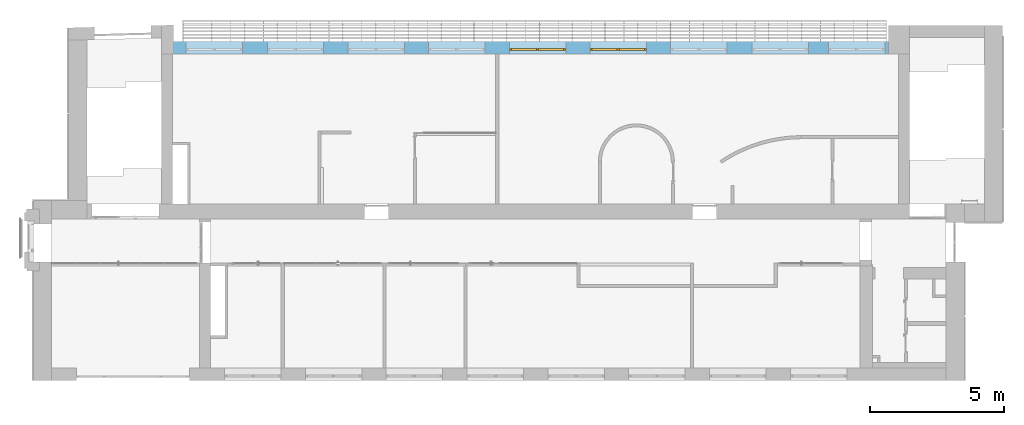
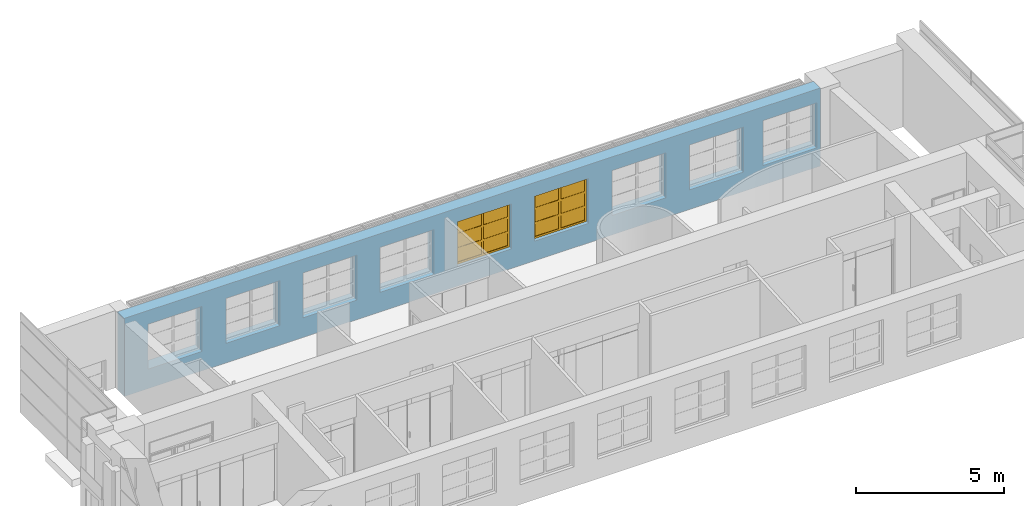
# One storey, part 36 of 46: 2 windows, 9 openings, plus 1 element that does not belong to this part.
"""IFC2X3 building model written with IfcOpenShell, lengths in millimetres."""

from ifc_helpers import new_model, entity, si_unit, converted_unit, derived_unit, direction, frame, frame_2d, origin, origin_2d_with_axis, place, context, subcontext, project, spatial, rectangle, extrude, face_set, surface_model, source, transform, mapped, material, material_list, layer, layer_set, layer_usage, type_object, type_shapes, element, fill, save


model = new_model("IFC2X3")

# Units and contexts
model_context = context("Model", 3, precision=0.01, world=origin(), true_north=direction((6.12303176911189e-17, 1.0)))
body_context = subcontext(model_context, "Body", "Model", "MODEL_VIEW")
ifc_project = project(units=[si_unit("LENGTHUNIT", "METRE", prefix="MILLI"), si_unit("AREAUNIT", "SQUARE_METRE"), si_unit("VOLUMEUNIT", "CUBIC_METRE"), converted_unit("PLANEANGLEUNIT", "DEGREE", entity("IfcRatioMeasure", 0.0174532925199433), si_unit("PLANEANGLEUNIT", "RADIAN"), dimensions=[0, 0, 0, 0, 0, 0, 0]), si_unit("MASSUNIT", "GRAM", prefix="KILO"), derived_unit("MASSDENSITYUNIT", [(si_unit("MASSUNIT", "GRAM", prefix="KILO"), 1), (si_unit("LENGTHUNIT", "METRE"), -3)]), si_unit("TIMEUNIT", "SECOND"), si_unit("FREQUENCYUNIT", "HERTZ"), si_unit("THERMODYNAMICTEMPERATUREUNIT", "DEGREE_CELSIUS"), derived_unit("THERMALTRANSMITTANCEUNIT", [(si_unit("MASSUNIT", "GRAM", prefix="KILO"), 1), (si_unit("THERMODYNAMICTEMPERATUREUNIT", "KELVIN"), -1), (si_unit("TIMEUNIT", "SECOND"), -3)]), derived_unit("VOLUMETRICFLOWRATEUNIT", [(si_unit("LENGTHUNIT", "METRE"), 3), (si_unit("TIMEUNIT", "SECOND"), -1)]), si_unit("ELECTRICCURRENTUNIT", "AMPERE"), si_unit("ELECTRICVOLTAGEUNIT", "VOLT"), si_unit("POWERUNIT", "WATT"), si_unit("FORCEUNIT", "NEWTON", prefix="KILO"), si_unit("ILLUMINANCEUNIT", "LUX"), si_unit("LUMINOUSFLUXUNIT", "LUMEN"), si_unit("LUMINOUSINTENSITYUNIT", "CANDELA"), derived_unit("USERDEFINED", [(si_unit("MASSUNIT", "GRAM", prefix="KILO"), -1), (si_unit("LENGTHUNIT", "METRE"), -2), (si_unit("TIMEUNIT", "SECOND"), 3), (si_unit("LUMINOUSFLUXUNIT", "LUMEN"), 1)]), derived_unit("LINEARVELOCITYUNIT", [(si_unit("LENGTHUNIT", "METRE"), 1), (si_unit("TIMEUNIT", "SECOND"), -1)]), si_unit("PRESSUREUNIT", "PASCAL"), derived_unit("USERDEFINED", [(si_unit("LENGTHUNIT", "METRE"), -2), (si_unit("MASSUNIT", "GRAM", prefix="KILO"), 1), (si_unit("TIMEUNIT", "SECOND"), -2)])], contexts=[model_context])

# Site, building, storey
site_placement = place(None, frame((-151.875543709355, 2715.0, 0.0)))
site = spatial("IfcSite", under=ifc_project, at=site_placement, Name="Surface", CompositionType="ELEMENT")
building_placement = place(site_placement, origin())
building = spatial("IfcBuilding", under=site, at=building_placement, CompositionType="ELEMENT")
storey_placement = place(building_placement, frame((0.0, 0.0, 10060.0)))
storey = spatial("IfcBuildingStorey", under=building, at=storey_placement, Name="4 korrus", CompositionType="ELEMENT", Elevation=10060.0000000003)

# Wall, openings, windows
ifc_material_1 = material(Name="Brick, Common")
ifc_layer_1 = layer(ifc_material_1, 440.0)
ifc_material_2 = material(Name="__Kips GN13_tava")
ifc_layer_2 = layer(ifc_material_2, 20.0)
ifc_layer_set = layer_set([ifc_layer_1, ifc_layer_2], Name="Basic Wall:VS-1")
ifc_layer_usage = layer_usage(ifc_layer_set, "AXIS2", "POSITIVE", -230.0)
wall_type = type_object("IfcWallType", Name="Basic Wall:VS-1", PredefinedType="STANDARD", material=ifc_layer_set)
wall_placement = place(storey_placement, frame((31602.6162682, 12380.0, 0.0), z_axis=(0.0, 0.0, 1.0), x_axis=(-1.0, 0.0, 0.0)))
wall = element("IfcWallStandardCase", 1, at=wall_placement, inside=storey, type_object=wall_type, material=ifc_layer_usage, Name="SEIN - 005", ObjectType="Basic Wall:VS-1", context=body_context, shape_type="SweptSolid", body=[
    extrude(rectangle(XDim=27061.7433388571, YDim=459.999999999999, at=frame_2d((13530.8716694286, 0.0), x_axis=(-1.0, 0.0))), origin(), (0.0, 0.0, 1.0), 3209.74134984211),
])
opening_1_placement = place(wall_placement, frame((31602.6162682, 12380.0, 0.0), z_axis=(0.0, 0.0, 1.0), x_axis=(-1.0, 0.0, 0.0)))
element("IfcOpeningElement", 2, at=opening_1_placement, cuts=wall, Name="SEIN - 005", ObjectType="Opening", context=body_context, shape_type="SweptSolid", body=[
    extrude(rectangle(XDim=1850.0, YDim=2100.0, at=frame_2d((0.0, -5.6843418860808e-13), x_axis=(1.0, 0.0))), frame((6512.84935535, 13077.9, 1725.0), z_axis=(0.0, -1.0, 0.0), x_axis=(0.0, 0.0, 1.0)), (0.0, 0.0, 1.0), 1393.8),
])
opening_2_placement = place(wall_placement, frame((31602.6162682, 12380.0, 0.0), z_axis=(0.0, 0.0, 1.0), x_axis=(-1.0, 0.0, 0.0)))
element("IfcOpeningElement", 3, at=opening_2_placement, cuts=wall, Name="SEIN - 005", ObjectType="Opening", context=body_context, shape_type="SweptSolid", body=[
    extrude(rectangle(XDim=1850.0, YDim=2100.0, at=frame_2d((0.0, -1.02318153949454e-12), x_axis=(1.0, 0.0))), frame((9532.84935535, 13077.9, 1725.0), z_axis=(0.0, -1.0, 0.0), x_axis=(0.0, 0.0, 1.0)), (0.0, 0.0, 1.0), 1393.8),
])
opening_3_placement = place(wall_placement, frame((31602.6162682, 12380.0, 0.0), z_axis=(0.0, 0.0, 1.0), x_axis=(-1.0, 0.0, 0.0)))
element("IfcOpeningElement", 4, at=opening_3_placement, cuts=wall, Name="SEIN - 005", ObjectType="Opening", context=body_context, shape_type="SweptSolid", body=[
    extrude(rectangle(XDim=1850.0, YDim=2100.0, at=origin_2d_with_axis()), frame((12532.84935535, 13077.9, 1725.0), z_axis=(0.0, -1.0, 0.0), x_axis=(0.0, 0.0, 1.0)), (0.0, 0.0, 1.0), 1393.8),
])
opening_4_placement = place(wall_placement, frame((31602.6162682, 12380.0, 0.0), z_axis=(0.0, 0.0, 1.0), x_axis=(-1.0, 0.0, 0.0)))
element("IfcOpeningElement", 5, at=opening_4_placement, cuts=wall, Name="SEIN - 005", ObjectType="Opening", context=body_context, shape_type="SweptSolid", body=[
    extrude(rectangle(XDim=1850.0, YDim=2100.0, at=origin_2d_with_axis()), frame((15532.84935531, 13077.9, 1725.0), z_axis=(0.0, -1.0, 0.0), x_axis=(0.0, 0.0, 1.0)), (0.0, 0.0, 1.0), 1393.8),
])
opening_5_placement = place(wall_placement, frame((31602.6162682, 12380.0, 0.0), z_axis=(0.0, 0.0, 1.0), x_axis=(-1.0, 0.0, 0.0)))
opening_5 = element("IfcOpeningElement", 6, at=opening_5_placement, cuts=wall, Name="SEIN - 005", ObjectType="Opening", context=body_context, shape_type="SweptSolid", body=[
    extrude(rectangle(XDim=1850.0, YDim=2100.0, at=origin_2d_with_axis()), frame((18542.84935531, 13077.9, 1725.0), z_axis=(0.0, -1.0, 0.0), x_axis=(0.0, 0.0, 1.0)), (0.0, 0.0, 1.0), 1393.8),
])
opening_6_placement = place(wall_placement, frame((31602.6162682, 12380.0, 0.0), z_axis=(0.0, 0.0, 1.0), x_axis=(-1.0, 0.0, 0.0)))
opening_6 = element("IfcOpeningElement", 7, at=opening_6_placement, cuts=wall, Name="SEIN - 005", ObjectType="Opening", context=body_context, shape_type="SweptSolid", body=[
    extrude(rectangle(XDim=1850.0, YDim=2100.0, at=origin_2d_with_axis()), frame((21543.05309771, 13077.9, 1725.0), z_axis=(0.0, -1.0, 0.0), x_axis=(0.0, 0.0, 1.0)), (0.0, 0.0, 1.0), 1393.8),
])
opening_7_placement = place(wall_placement, frame((31602.6162682, 12380.0, 0.0), z_axis=(0.0, 0.0, 1.0), x_axis=(-1.0, 0.0, 0.0)))
element("IfcOpeningElement", 8, at=opening_7_placement, cuts=wall, Name="SEIN - 005", ObjectType="Opening", context=body_context, shape_type="SweptSolid", body=[
    extrude(rectangle(XDim=1850.0, YDim=2100.0, at=origin_2d_with_axis()), frame((24543.05309771, 13077.9, 1725.0), z_axis=(0.0, -1.0, 0.0), x_axis=(0.0, 0.0, 1.0)), (0.0, 0.0, 1.0), 1393.8),
])
opening_8_placement = place(wall_placement, frame((31602.6162682, 12380.0, 0.0), z_axis=(0.0, 0.0, 1.0), x_axis=(-1.0, 0.0, 0.0)))
element("IfcOpeningElement", 9, at=opening_8_placement, cuts=wall, Name="SEIN - 005", ObjectType="Opening", context=body_context, shape_type="SweptSolid", body=[
    extrude(rectangle(XDim=1850.0, YDim=2100.0, at=frame_2d((0.0, 4.32009983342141e-12), x_axis=(1.0, 0.0))), frame((27563.05309771, 13077.9, 1725.0), z_axis=(0.0, -1.0, 0.0), x_axis=(0.0, 0.0, 1.0)), (0.0, 0.0, 1.0), 1393.8),
])
opening_9_placement = place(wall_placement, frame((31602.6162682, 12380.0, 0.0), z_axis=(0.0, 0.0, 1.0), x_axis=(-1.0, 0.0, 0.0)))
element("IfcOpeningElement", 10, at=opening_9_placement, cuts=wall, Name="SEIN - 005", ObjectType="Opening", context=body_context, shape_type="SweptSolid", body=[
    extrude(rectangle(XDim=1850.0, YDim=2100.0, at=origin_2d_with_axis()), frame((30412.57293081, 13077.9, 1725.0), z_axis=(0.0, -1.0, 0.0), x_axis=(0.0, 0.0, 1.0)), (0.0, 0.0, 1.0), 1393.8),
])
ifc_material_3 = material(Name="Paint - Titanium White")
ifc_material_4 = material(Name="Paint - Dark Gray")
ifc_material_5 = material(Name="Glass - Clear Fast")
ifc_material_list_1 = material_list([ifc_material_3, ifc_material_4, ifc_material_5])
ifc_material_list_2 = material_list([ifc_material_3, ifc_material_4, ifc_material_5])
window_style = type_object("IfcWindowStyle", Name="Aken_1850x2100", ConstructionType="NOTDEFINED", OperationType="DOUBLE_PANEL_VERTICAL", ParameterTakesPrecedence=False, Sizeable=False, material=ifc_material_list_2)
shared_shape = source(origin(), body_context, "Body", "SurfaceModel", [
    surface_model("IfcFaceBasedSurfaceModel", [(80.0, -665.9, 1770.0), (80.0, -620.9, 1770.0), (0.0, -620.9, 1770.0), (0.0, -665.9, 1770.0), (80.0, -665.9, 80.0), (80.0, -620.9, 80.0), (80.0, -620.9, 1770.0), (80.0, -665.9, 1770.0), (80.0, -620.9, 1770.0), (80.0, -620.9, 80.0), (0.0, -620.9, 80.0), (0.0, -620.9, 1770.0), (0.0, -665.9, 1770.0), (0.0, -620.9, 1770.0), (0.0, -620.9, 80.0), (0.0, -665.9, 80.0), (80.0, -665.9, 1770.0), (0.0, -665.9, 1770.0), (0.0, -665.9, 80.0), (80.0, -665.9, 80.0), (0.0, -665.9, 80.0), (0.0, -620.9, 80.0), (80.0, -620.9, 80.0), (80.0, -665.9, 80.0), (2020.0, -665.9, 80.0), (2020.0, -620.9, 80.0), (2100.0, -620.9, 80.0), (2100.0, -665.9, 80.0), (2020.0, -665.9, 1770.0), (2020.0, -620.9, 1770.0), (2020.0, -620.9, 80.0), (2020.0, -665.9, 80.0), (2020.0, -620.9, 80.0), (2020.0, -620.9, 1770.0), (2100.0, -620.9, 1770.0), (2100.0, -620.9, 80.0), (2100.0, -665.9, 80.0), (2100.0, -620.9, 80.0), (2100.0, -620.9, 1770.0), (2100.0, -665.9, 1770.0), (2020.0, -665.9, 80.0), (2100.0, -665.9, 80.0), (2100.0, -665.9, 1770.0), (2020.0, -665.9, 1770.0), (2100.0, -665.9, 1770.0), (2100.0, -620.9, 1770.0), (2020.0, -620.9, 1770.0), (2020.0, -665.9, 1770.0), (1010.0, -665.9, 80.0), (1010.0, -620.9, 80.0), (1090.0, -620.9, 80.0), (1090.0, -665.9, 80.0), (1010.0, -665.9, 1770.0), (1010.0, -620.9, 1770.0), (1010.0, -620.9, 80.0), (1010.0, -665.9, 80.0), (1010.0, -620.9, 80.0), (1010.0, -620.9, 1770.0), (1090.0, -620.9, 1770.0), (1090.0, -620.9, 80.0), (1090.0, -665.9, 80.0), (1090.0, -620.9, 80.0), (1090.0, -620.9, 1770.0), (1090.0, -665.9, 1770.0), (1010.0, -665.9, 80.0), (1090.0, -665.9, 80.0), (1090.0, -665.9, 1770.0), (1010.0, -665.9, 1770.0), (1090.0, -665.9, 1770.0), (1090.0, -620.9, 1770.0), (1010.0, -620.9, 1770.0), (1010.0, -665.9, 1770.0), (80.0, -665.9, 80.0), (80.0, -620.9, 80.0), (0.0, -620.9, 80.0), (0.0, -665.9, 80.0), (1010.0, -665.9, 80.0), (1010.0, -620.9, 80.0), (80.0, -620.9, 80.0), (80.0, -665.9, 80.0), (80.0, -620.9, 80.0), (1010.0, -620.9, 80.0), (1090.0, -620.9, 80.0), (2020.0, -620.9, 80.0), (2100.0, -620.9, 80.0), (2100.0, -620.9, 0.0), (0.0, -620.9, 0.0), (0.0, -620.9, 80.0), (0.0, -665.9, 80.0), (0.0, -620.9, 80.0), (0.0, -620.9, 0.0), (0.0, -665.9, 0.0), (80.0, -665.9, 80.0), (0.0, -665.9, 80.0), (0.0, -665.9, 0.0), (2100.0, -665.9, 0.0), (2100.0, -665.9, 80.0), (2020.0, -665.9, 80.0), (1090.0, -665.9, 80.0), (1010.0, -665.9, 80.0), (1090.0, -665.9, 80.0), (1090.0, -620.9, 80.0), (1010.0, -620.9, 80.0), (1010.0, -665.9, 80.0), (2020.0, -665.9, 80.0), (2020.0, -620.9, 80.0), (1090.0, -620.9, 80.0), (1090.0, -665.9, 80.0), (2100.0, -665.9, 80.0), (2100.0, -620.9, 80.0), (2020.0, -620.9, 80.0), (2020.0, -665.9, 80.0), (2100.0, -665.9, 0.0), (2100.0, -620.9, 0.0), (2100.0, -620.9, 80.0), (2100.0, -665.9, 80.0), (0.0, -665.9, 0.0), (0.0, -620.9, 0.0), (2100.0, -620.9, 0.0), (2100.0, -665.9, 0.0), (1010.0, -665.9, 1770.0), (1010.0, -620.9, 1770.0), (1090.0, -620.9, 1770.0), (1090.0, -665.9, 1770.0), (80.0, -665.9, 1770.0), (80.0, -620.9, 1770.0), (1010.0, -620.9, 1770.0), (1010.0, -665.9, 1770.0), (1010.0, -620.9, 1770.0), (80.0, -620.9, 1770.0), (0.0, -620.9, 1770.0), (0.0, -620.9, 1850.0), (2100.0, -620.9, 1850.0), (2100.0, -620.9, 1770.0), (2020.0, -620.9, 1770.0), (1090.0, -620.9, 1770.0), (1090.0, -665.9, 1770.0), (1090.0, -620.9, 1770.0), (2020.0, -620.9, 1770.0), (2020.0, -665.9, 1770.0), (1010.0, -665.9, 1770.0), (1090.0, -665.9, 1770.0), (2020.0, -665.9, 1770.0), (2100.0, -665.9, 1770.0), (2100.0, -665.9, 1850.0), (0.0, -665.9, 1850.0), (0.0, -665.9, 1770.0), (80.0, -665.9, 1770.0), (0.0, -665.9, 1770.0), (0.0, -620.9, 1770.0), (80.0, -620.9, 1770.0), (80.0, -665.9, 1770.0), (0.0, -665.9, 1850.0), (0.0, -620.9, 1850.0), (0.0, -620.9, 1770.0), (0.0, -665.9, 1770.0), (2100.0, -665.9, 1850.0), (2100.0, -620.9, 1850.0), (0.0, -620.9, 1850.0), (0.0, -665.9, 1850.0), (2100.0, -665.9, 1770.0), (2100.0, -620.9, 1770.0), (2100.0, -620.9, 1850.0), (2100.0, -665.9, 1850.0), (2020.0, -665.9, 1770.0), (2020.0, -620.9, 1770.0), (2100.0, -620.9, 1770.0), (2100.0, -665.9, 1770.0), (80.0, -640.9, 590.0), (80.0, -630.9, 590.0), (1010.0, -630.9, 590.0), (1010.0, -640.9, 590.0), (80.0, -640.9, 670.0), (80.0, -630.9, 670.0), (80.0, -630.9, 590.0), (80.0, -640.9, 590.0), (80.0, -630.9, 590.0), (80.0, -630.9, 670.0), (1010.0, -630.9, 670.0), (1010.0, -630.9, 590.0), (1010.0, -640.9, 590.0), (1010.0, -630.9, 590.0), (1010.0, -630.9, 670.0), (1010.0, -640.9, 670.0), (80.0, -640.9, 590.0), (1010.0, -640.9, 590.0), (1010.0, -640.9, 670.0), (80.0, -640.9, 670.0), (1010.0, -640.9, 670.0), (1010.0, -630.9, 670.0), (80.0, -630.9, 670.0), (80.0, -640.9, 670.0), (80.0, -640.9, 1180.0), (80.0, -630.9, 1180.0), (1010.0, -630.9, 1180.0), (1010.0, -640.9, 1180.0), (80.0, -640.9, 1260.0), (80.0, -630.9, 1260.0), (80.0, -630.9, 1180.0), (80.0, -640.9, 1180.0), (80.0, -630.9, 1180.0), (80.0, -630.9, 1260.0), (1010.0, -630.9, 1260.0), (1010.0, -630.9, 1180.0), (1010.0, -640.9, 1180.0), (1010.0, -630.9, 1180.0), (1010.0, -630.9, 1260.0), (1010.0, -640.9, 1260.0), (80.0, -640.9, 1180.0), (1010.0, -640.9, 1180.0), (1010.0, -640.9, 1260.0), (80.0, -640.9, 1260.0), (1010.0, -640.9, 1260.0), (1010.0, -630.9, 1260.0), (80.0, -630.9, 1260.0), (80.0, -640.9, 1260.0), (1090.0, -640.9, 590.0), (1090.0, -630.9, 590.0), (2020.0, -630.9, 590.0), (2020.0, -640.9, 590.0), (1090.0, -640.9, 670.0), (1090.0, -630.9, 670.0), (1090.0, -630.9, 590.0), (1090.0, -640.9, 590.0), (1090.0, -630.9, 590.0), (1090.0, -630.9, 670.0), (2020.0, -630.9, 670.0), (2020.0, -630.9, 590.0), (2020.0, -640.9, 590.0), (2020.0, -630.9, 590.0), (2020.0, -630.9, 670.0), (2020.0, -640.9, 670.0), (1090.0, -640.9, 590.0), (2020.0, -640.9, 590.0), (2020.0, -640.9, 670.0), (1090.0, -640.9, 670.0), (2020.0, -640.9, 670.0), (2020.0, -630.9, 670.0), (1090.0, -630.9, 670.0), (1090.0, -640.9, 670.0), (1090.0, -640.9, 1180.0), (1090.0, -630.9, 1180.0), (2020.0, -630.9, 1180.0), (2020.0, -640.9, 1180.0), (1090.0, -640.9, 1260.0), (1090.0, -630.9, 1260.0), (1090.0, -630.9, 1180.0), (1090.0, -640.9, 1180.0), (1090.0, -630.9, 1180.0), (1090.0, -630.9, 1260.0), (2020.0, -630.9, 1260.0), (2020.0, -630.9, 1180.0), (2020.0, -640.9, 1180.0), (2020.0, -630.9, 1180.0), (2020.0, -630.9, 1260.0), (2020.0, -640.9, 1260.0), (1090.0, -640.9, 1180.0), (2020.0, -640.9, 1180.0), (2020.0, -640.9, 1260.0), (1090.0, -640.9, 1260.0), (2020.0, -640.9, 1260.0), (2020.0, -630.9, 1260.0), (1090.0, -630.9, 1260.0), (1090.0, -640.9, 1260.0)], [face_set([[[0, 1, 2, 3]]]), face_set([[[4, 5, 6, 7]]]), face_set([[[8, 9, 10, 11]]]), face_set([[[12, 13, 14, 15]]]), face_set([[[16, 17, 18, 19]]]), face_set([[[20, 21, 22, 23]]]), face_set([[[24, 25, 26, 27]]]), face_set([[[28, 29, 30, 31]]]), face_set([[[32, 33, 34, 35]]]), face_set([[[36, 37, 38, 39]]]), face_set([[[40, 41, 42, 43]]]), face_set([[[44, 45, 46, 47]]]), face_set([[[48, 49, 50, 51]]]), face_set([[[52, 53, 54, 55]]]), face_set([[[56, 57, 58, 59]]]), face_set([[[60, 61, 62, 63]]]), face_set([[[64, 65, 66, 67]]]), face_set([[[68, 69, 70, 71]]]), face_set([[[72, 73, 74, 75]]]), face_set([[[76, 77, 78, 79]]]), face_set([[[80, 81, 82, 83, 84, 85, 86, 87]]]), face_set([[[88, 89, 90, 91]]]), face_set([[[92, 93, 94, 95, 96, 97, 98, 99]]]), face_set([[[100, 101, 102, 103]]]), face_set([[[104, 105, 106, 107]]]), face_set([[[108, 109, 110, 111]]]), face_set([[[112, 113, 114, 115]]]), face_set([[[116, 117, 118, 119]]]), face_set([[[120, 121, 122, 123]]]), face_set([[[124, 125, 126, 127]]]), face_set([[[128, 129, 130, 131, 132, 133, 134, 135]]]), face_set([[[136, 137, 138, 139]]]), face_set([[[140, 141, 142, 143, 144, 145, 146, 147]]]), face_set([[[148, 149, 150, 151]]]), face_set([[[152, 153, 154, 155]]]), face_set([[[156, 157, 158, 159]]]), face_set([[[160, 161, 162, 163]]]), face_set([[[164, 165, 166, 167]]]), face_set([[[168, 169, 170, 171]]]), face_set([[[172, 173, 174, 175]]]), face_set([[[176, 177, 178, 179]]]), face_set([[[180, 181, 182, 183]]]), face_set([[[184, 185, 186, 187]]]), face_set([[[188, 189, 190, 191]]]), face_set([[[192, 193, 194, 195]]]), face_set([[[196, 197, 198, 199]]]), face_set([[[200, 201, 202, 203]]]), face_set([[[204, 205, 206, 207]]]), face_set([[[208, 209, 210, 211]]]), face_set([[[212, 213, 214, 215]]]), face_set([[[216, 217, 218, 219]]]), face_set([[[220, 221, 222, 223]]]), face_set([[[224, 225, 226, 227]]]), face_set([[[228, 229, 230, 231]]]), face_set([[[232, 233, 234, 235]]]), face_set([[[236, 237, 238, 239]]]), face_set([[[240, 241, 242, 243]]]), face_set([[[244, 245, 246, 247]]]), face_set([[[248, 249, 250, 251]]]), face_set([[[252, 253, 254, 255]]]), face_set([[[256, 257, 258, 259]]]), face_set([[[260, 261, 262, 263]]])]),
    surface_model("IfcFaceBasedSurfaceModel", [(80.0, -620.9, 1770.0), (80.0, -595.9, 1770.0), (0.0, -595.9, 1770.0), (0.0, -620.9, 1770.0), (80.0, -620.9, 80.0), (80.0, -595.9, 80.0), (80.0, -595.9, 1770.0), (80.0, -620.9, 1770.0), (80.0, -595.9, 1770.0), (80.0, -595.9, 80.0), (0.0, -595.9, 80.0), (0.0, -595.9, 1770.0), (0.0, -620.9, 1770.0), (0.0, -595.9, 1770.0), (0.0, -595.9, 80.0), (0.0, -620.9, 80.0), (80.0, -620.9, 1770.0), (0.0, -620.9, 1770.0), (0.0, -620.9, 80.0), (80.0, -620.9, 80.0), (0.0, -620.9, 80.0), (0.0, -595.9, 80.0), (80.0, -595.9, 80.0), (80.0, -620.9, 80.0), (2020.0, -620.9, 80.0), (2020.0, -595.9, 80.0), (2100.0, -595.9, 80.0), (2100.0, -620.9, 80.0), (2020.0, -620.9, 1770.0), (2020.0, -595.9, 1770.0), (2020.0, -595.9, 80.0), (2020.0, -620.9, 80.0), (2020.0, -595.9, 80.0), (2020.0, -595.9, 1770.0), (2100.0, -595.9, 1770.0), (2100.0, -595.9, 80.0), (2100.0, -620.9, 80.0), (2100.0, -595.9, 80.0), (2100.0, -595.9, 1770.0), (2100.0, -620.9, 1770.0), (2020.0, -620.9, 80.0), (2100.0, -620.9, 80.0), (2100.0, -620.9, 1770.0), (2020.0, -620.9, 1770.0), (2100.0, -620.9, 1770.0), (2100.0, -595.9, 1770.0), (2020.0, -595.9, 1770.0), (2020.0, -620.9, 1770.0), (1010.0, -620.9, 80.0), (1010.0, -595.9, 80.0), (1090.0, -595.9, 80.0), (1090.0, -620.9, 80.0), (1010.0, -620.9, 1770.0), (1010.0, -595.9, 1770.0), (1010.0, -595.9, 80.0), (1010.0, -620.9, 80.0), (1010.0, -595.9, 80.0), (1010.0, -595.9, 1770.0), (1090.0, -595.9, 1770.0), (1090.0, -595.9, 80.0), (1090.0, -620.9, 80.0), (1090.0, -595.9, 80.0), (1090.0, -595.9, 1770.0), (1090.0, -620.9, 1770.0), (1010.0, -620.9, 80.0), (1090.0, -620.9, 80.0), (1090.0, -620.9, 1770.0), (1010.0, -620.9, 1770.0), (1090.0, -620.9, 1770.0), (1090.0, -595.9, 1770.0), (1010.0, -595.9, 1770.0), (1010.0, -620.9, 1770.0), (80.0, -620.9, 80.0), (80.0, -595.9, 80.0), (0.0, -595.9, 80.0), (0.0, -620.9, 80.0), (1010.0, -620.9, 80.0), (1010.0, -595.9, 80.0), (80.0, -595.9, 80.0), (80.0, -620.9, 80.0), (80.0, -595.9, 80.0), (1010.0, -595.9, 80.0), (1090.0, -595.9, 80.0), (2020.0, -595.9, 80.0), (2100.0, -595.9, 80.0), (2100.0, -595.9, 0.0), (0.0, -595.9, 0.0), (0.0, -595.9, 80.0), (0.0, -620.9, 80.0), (0.0, -595.9, 80.0), (0.0, -595.9, 0.0), (0.0, -620.9, 0.0), (80.0, -620.9, 80.0), (0.0, -620.9, 80.0), (0.0, -620.9, 0.0), (2100.0, -620.9, 0.0), (2100.0, -620.9, 80.0), (2020.0, -620.9, 80.0), (1090.0, -620.9, 80.0), (1010.0, -620.9, 80.0), (1090.0, -620.9, 80.0), (1090.0, -595.9, 80.0), (1010.0, -595.9, 80.0), (1010.0, -620.9, 80.0), (2020.0, -620.9, 80.0), (2020.0, -595.9, 80.0), (1090.0, -595.9, 80.0), (1090.0, -620.9, 80.0), (2100.0, -620.9, 80.0), (2100.0, -595.9, 80.0), (2020.0, -595.9, 80.0), (2020.0, -620.9, 80.0), (2100.0, -620.9, 0.0), (2100.0, -595.9, 0.0), (2100.0, -595.9, 80.0), (2100.0, -620.9, 80.0), (0.0, -620.9, 0.0), (0.0, -595.9, 0.0), (2100.0, -595.9, 0.0), (2100.0, -620.9, 0.0), (1010.0, -620.9, 1770.0), (1010.0, -595.9, 1770.0), (1090.0, -595.9, 1770.0), (1090.0, -620.9, 1770.0), (80.0, -620.9, 1770.0), (80.0, -595.9, 1770.0), (1010.0, -595.9, 1770.0), (1010.0, -620.9, 1770.0), (1010.0, -595.9, 1770.0), (80.0, -595.9, 1770.0), (0.0, -595.9, 1770.0), (0.0, -595.9, 1850.0), (2100.0, -595.9, 1850.0), (2100.0, -595.9, 1770.0), (2020.0, -595.9, 1770.0), (1090.0, -595.9, 1770.0), (1090.0, -620.9, 1770.0), (1090.0, -595.9, 1770.0), (2020.0, -595.9, 1770.0), (2020.0, -620.9, 1770.0), (1010.0, -620.9, 1770.0), (1090.0, -620.9, 1770.0), (2020.0, -620.9, 1770.0), (2100.0, -620.9, 1770.0), (2100.0, -620.9, 1850.0), (0.0, -620.9, 1850.0), (0.0, -620.9, 1770.0), (80.0, -620.9, 1770.0), (0.0, -620.9, 1770.0), (0.0, -595.9, 1770.0), (80.0, -595.9, 1770.0), (80.0, -620.9, 1770.0), (0.0, -620.9, 1850.0), (0.0, -595.9, 1850.0), (0.0, -595.9, 1770.0), (0.0, -620.9, 1770.0), (2100.0, -620.9, 1850.0), (2100.0, -595.9, 1850.0), (0.0, -595.9, 1850.0), (0.0, -620.9, 1850.0), (2100.0, -620.9, 1770.0), (2100.0, -595.9, 1770.0), (2100.0, -595.9, 1850.0), (2100.0, -620.9, 1850.0), (2020.0, -620.9, 1770.0), (2020.0, -595.9, 1770.0), (2100.0, -595.9, 1770.0), (2100.0, -620.9, 1770.0), (80.0, -630.9, 590.0), (80.0, -600.9, 590.0), (1010.0, -600.9, 590.0), (1010.0, -630.9, 590.0), (80.0, -630.9, 670.0), (80.0, -600.9, 670.0), (80.0, -600.9, 590.0), (80.0, -630.9, 590.0), (80.0, -600.9, 590.0), (80.0, -600.9, 670.0), (1010.0, -600.9, 670.0), (1010.0, -600.9, 590.0), (1010.0, -630.9, 590.0), (1010.0, -600.9, 590.0), (1010.0, -600.9, 670.0), (1010.0, -630.9, 670.0), (80.0, -630.9, 590.0), (1010.0, -630.9, 590.0), (1010.0, -630.9, 670.0), (80.0, -630.9, 670.0), (1010.0, -630.9, 670.0), (1010.0, -600.9, 670.0), (80.0, -600.9, 670.0), (80.0, -630.9, 670.0), (80.0, -630.9, 1180.0), (80.0, -600.9, 1180.0), (1010.0, -600.9, 1180.0), (1010.0, -630.9, 1180.0), (80.0, -630.9, 1260.0), (80.0, -600.9, 1260.0), (80.0, -600.9, 1180.0), (80.0, -630.9, 1180.0), (80.0, -600.9, 1180.0), (80.0, -600.9, 1260.0), (1010.0, -600.9, 1260.0), (1010.0, -600.9, 1180.0), (1010.0, -630.9, 1180.0), (1010.0, -600.9, 1180.0), (1010.0, -600.9, 1260.0), (1010.0, -630.9, 1260.0), (80.0, -630.9, 1180.0), (1010.0, -630.9, 1180.0), (1010.0, -630.9, 1260.0), (80.0, -630.9, 1260.0), (1010.0, -630.9, 1260.0), (1010.0, -600.9, 1260.0), (80.0, -600.9, 1260.0), (80.0, -630.9, 1260.0), (1090.0, -630.9, 590.0), (1090.0, -600.9, 590.0), (2020.0, -600.9, 590.0), (2020.0, -630.9, 590.0), (1090.0, -630.9, 670.0), (1090.0, -600.9, 670.0), (1090.0, -600.9, 590.0), (1090.0, -630.9, 590.0), (1090.0, -600.9, 590.0), (1090.0, -600.9, 670.0), (2020.0, -600.9, 670.0), (2020.0, -600.9, 590.0), (2020.0, -630.9, 590.0), (2020.0, -600.9, 590.0), (2020.0, -600.9, 670.0), (2020.0, -630.9, 670.0), (1090.0, -630.9, 590.0), (2020.0, -630.9, 590.0), (2020.0, -630.9, 670.0), (1090.0, -630.9, 670.0), (2020.0, -630.9, 670.0), (2020.0, -600.9, 670.0), (1090.0, -600.9, 670.0), (1090.0, -630.9, 670.0), (1090.0, -630.9, 1180.0), (1090.0, -600.9, 1180.0), (2020.0, -600.9, 1180.0), (2020.0, -630.9, 1180.0), (1090.0, -630.9, 1260.0), (1090.0, -600.9, 1260.0), (1090.0, -600.9, 1180.0), (1090.0, -630.9, 1180.0), (1090.0, -600.9, 1180.0), (1090.0, -600.9, 1260.0), (2020.0, -600.9, 1260.0), (2020.0, -600.9, 1180.0), (2020.0, -630.9, 1180.0), (2020.0, -600.9, 1180.0), (2020.0, -600.9, 1260.0), (2020.0, -630.9, 1260.0), (1090.0, -630.9, 1180.0), (2020.0, -630.9, 1180.0), (2020.0, -630.9, 1260.0), (1090.0, -630.9, 1260.0), (2020.0, -630.9, 1260.0), (2020.0, -600.9, 1260.0), (1090.0, -600.9, 1260.0), (1090.0, -630.9, 1260.0)], [face_set([[[0, 1, 2, 3]]]), face_set([[[4, 5, 6, 7]]]), face_set([[[8, 9, 10, 11]]]), face_set([[[12, 13, 14, 15]]]), face_set([[[16, 17, 18, 19]]]), face_set([[[20, 21, 22, 23]]]), face_set([[[24, 25, 26, 27]]]), face_set([[[28, 29, 30, 31]]]), face_set([[[32, 33, 34, 35]]]), face_set([[[36, 37, 38, 39]]]), face_set([[[40, 41, 42, 43]]]), face_set([[[44, 45, 46, 47]]]), face_set([[[48, 49, 50, 51]]]), face_set([[[52, 53, 54, 55]]]), face_set([[[56, 57, 58, 59]]]), face_set([[[60, 61, 62, 63]]]), face_set([[[64, 65, 66, 67]]]), face_set([[[68, 69, 70, 71]]]), face_set([[[72, 73, 74, 75]]]), face_set([[[76, 77, 78, 79]]]), face_set([[[80, 81, 82, 83, 84, 85, 86, 87]]]), face_set([[[88, 89, 90, 91]]]), face_set([[[92, 93, 94, 95, 96, 97, 98, 99]]]), face_set([[[100, 101, 102, 103]]]), face_set([[[104, 105, 106, 107]]]), face_set([[[108, 109, 110, 111]]]), face_set([[[112, 113, 114, 115]]]), face_set([[[116, 117, 118, 119]]]), face_set([[[120, 121, 122, 123]]]), face_set([[[124, 125, 126, 127]]]), face_set([[[128, 129, 130, 131, 132, 133, 134, 135]]]), face_set([[[136, 137, 138, 139]]]), face_set([[[140, 141, 142, 143, 144, 145, 146, 147]]]), face_set([[[148, 149, 150, 151]]]), face_set([[[152, 153, 154, 155]]]), face_set([[[156, 157, 158, 159]]]), face_set([[[160, 161, 162, 163]]]), face_set([[[164, 165, 166, 167]]]), face_set([[[168, 169, 170, 171]]]), face_set([[[172, 173, 174, 175]]]), face_set([[[176, 177, 178, 179]]]), face_set([[[180, 181, 182, 183]]]), face_set([[[184, 185, 186, 187]]]), face_set([[[188, 189, 190, 191]]]), face_set([[[192, 193, 194, 195]]]), face_set([[[196, 197, 198, 199]]]), face_set([[[200, 201, 202, 203]]]), face_set([[[204, 205, 206, 207]]]), face_set([[[208, 209, 210, 211]]]), face_set([[[212, 213, 214, 215]]]), face_set([[[216, 217, 218, 219]]]), face_set([[[220, 221, 222, 223]]]), face_set([[[224, 225, 226, 227]]]), face_set([[[228, 229, 230, 231]]]), face_set([[[232, 233, 234, 235]]]), face_set([[[236, 237, 238, 239]]]), face_set([[[240, 241, 242, 243]]]), face_set([[[244, 245, 246, 247]]]), face_set([[[248, 249, 250, 251]]]), face_set([[[252, 253, 254, 255]]]), face_set([[[256, 257, 258, 259]]]), face_set([[[260, 261, 262, 263]]])]),
    surface_model("IfcFaceBasedSurfaceModel", [(1010.0, -630.9, 80.0), (1010.0, -630.9, 590.0), (80.0, -630.9, 590.0), (80.0, -630.9, 80.0), (1010.0, -610.9, 80.0), (80.0, -610.9, 80.0), (80.0, -610.9, 590.0), (1010.0, -610.9, 590.0), (1010.0, -630.9, 670.0), (1010.0, -630.9, 1180.0), (80.0, -630.9, 1180.0), (80.0, -630.9, 670.0), (1010.0, -610.9, 670.0), (80.0, -610.9, 670.0), (80.0, -610.9, 1180.0), (1010.0, -610.9, 1180.0), (1010.0, -630.9, 1260.0), (1010.0, -630.9, 1770.0), (80.0, -630.9, 1770.0), (80.0, -630.9, 1260.0), (1010.0, -610.9, 1260.0), (80.0, -610.9, 1260.0), (80.0, -610.9, 1770.0), (1010.0, -610.9, 1770.0), (2020.0, -630.9, 80.0), (2020.0, -630.9, 590.0), (1090.0, -630.9, 590.0), (1090.0, -630.9, 80.0), (2020.0, -610.9, 80.0), (1090.0, -610.9, 80.0), (1090.0, -610.9, 590.0), (2020.0, -610.9, 590.0), (2020.0, -630.9, 670.0), (2020.0, -630.9, 1180.0), (1090.0, -630.9, 1180.0), (1090.0, -630.9, 670.0), (2020.0, -610.9, 670.0), (1090.0, -610.9, 670.0), (1090.0, -610.9, 1180.0), (2020.0, -610.9, 1180.0), (2020.0, -630.9, 1260.0), (2020.0, -630.9, 1770.0), (1090.0, -630.9, 1770.0), (1090.0, -630.9, 1260.0), (2020.0, -610.9, 1260.0), (1090.0, -610.9, 1260.0), (1090.0, -610.9, 1770.0), (2020.0, -610.9, 1770.0)], [face_set([[[0, 1, 2, 3]]]), face_set([[[4, 5, 6, 7]]]), face_set([[[8, 9, 10, 11]]]), face_set([[[12, 13, 14, 15]]]), face_set([[[16, 17, 18, 19]]]), face_set([[[20, 21, 22, 23]]]), face_set([[[24, 25, 26, 27]]]), face_set([[[28, 29, 30, 31]]]), face_set([[[32, 33, 34, 35]]]), face_set([[[36, 37, 38, 39]]]), face_set([[[40, 41, 42, 43]]]), face_set([[[44, 45, 46, 47]]])]),
])
type_shapes(window_style, [shared_shape])
window_1_placement = place(opening_5_placement, frame((19592.84935531, 11684.1, 800.0), z_axis=(0.0, 0.0, 1.0), x_axis=(-1.0, 0.0, 0.0)))
window_1 = element("IfcWindow", 11, at=window_1_placement, inside=storey, type_object=window_style, material=ifc_material_list_1, Name="Aken_1850x2100:Aken_1850x2100", ObjectType="Aken_1850x2100", OverallHeight=2100.0, OverallWidth=1850.0, context=body_context, shape_type="MappedRepresentation", body=[
    mapped(shared_shape, transform((0.0, 0.0, 0.0), scale=1.0)),
])
fill(opening_5, window_1)
ifc_material_list_3 = material_list([ifc_material_3, ifc_material_4, ifc_material_5])
window_2_placement = place(opening_6_placement, frame((22593.05309771, 11684.1, 800.0), z_axis=(0.0, 0.0, 1.0), x_axis=(-1.0, 0.0, 0.0)))
window_2 = element("IfcWindow", 12, at=window_2_placement, inside=storey, type_object=window_style, material=ifc_material_list_3, Name="Aken_1850x2100:Aken_1850x2100", ObjectType="Aken_1850x2100", OverallHeight=2100.0, OverallWidth=1850.0, context=body_context, shape_type="MappedRepresentation", body=[
    mapped(shared_shape, transform((0.0, 0.0, 0.0), scale=1.0)),
])
fill(opening_6, window_2)

save(model, "model.ifc")
